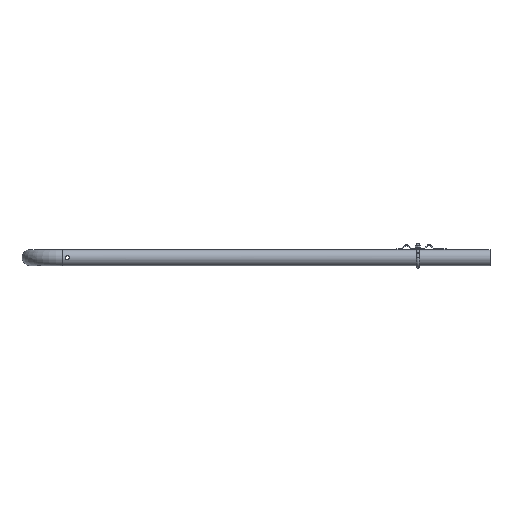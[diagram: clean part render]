
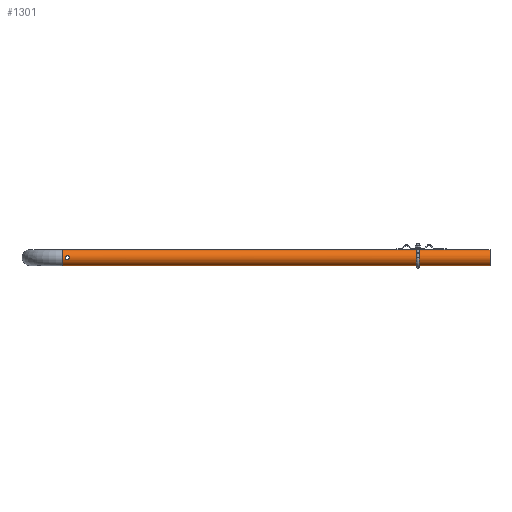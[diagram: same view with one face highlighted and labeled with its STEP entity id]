
A CAD part, left-side view. The second image highlights one B-rep face of the part: STEP entity #1301.
In plain terms, the highlighted cylindrical face has radius 21.2 mm (diameter 42.4 mm), a full revolution.
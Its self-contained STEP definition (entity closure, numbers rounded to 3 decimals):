
#192=CARTESIAN_POINT('',(20.474,1001.2,-5.5));
#193=VERTEX_POINT('',#192);
#194=CARTESIAN_POINT('',(20.474,1001.2,-5.5));
#195=CARTESIAN_POINT('',(20.474,1000.506,-5.5));
#196=CARTESIAN_POINT('',(20.513,999.768,-5.361));
#197=CARTESIAN_POINT('',(20.652,998.414,-4.798));
#198=CARTESIAN_POINT('',(20.749,997.797,-4.376));
#199=CARTESIAN_POINT('',(20.931,996.824,-3.403));
#200=CARTESIAN_POINT('',(21.027,996.402,-2.786));
#201=CARTESIAN_POINT('',(21.163,995.839,-1.432));
#202=CARTESIAN_POINT('',(21.2,995.7,-0.694));
#203=CARTESIAN_POINT('',(21.2,995.7,0.694));
#204=CARTESIAN_POINT('',(21.163,995.839,1.432));
#205=CARTESIAN_POINT('',(21.027,996.402,2.786));
#206=CARTESIAN_POINT('',(20.931,996.824,3.403));
#207=CARTESIAN_POINT('',(20.749,997.797,4.376));
#208=CARTESIAN_POINT('',(20.652,998.414,4.798));
#209=CARTESIAN_POINT('',(20.513,999.768,5.361));
#210=CARTESIAN_POINT('',(20.474,1000.506,5.5));
#211=CARTESIAN_POINT('',(20.474,1001.894,5.5));
#212=CARTESIAN_POINT('',(20.513,1002.632,5.361));
#213=CARTESIAN_POINT('',(20.652,1003.986,4.798));
#214=CARTESIAN_POINT('',(20.749,1004.603,4.376));
#215=CARTESIAN_POINT('',(20.931,1005.576,3.403));
#216=CARTESIAN_POINT('',(21.027,1005.998,2.786));
#217=CARTESIAN_POINT('',(21.163,1006.561,1.432));
#218=CARTESIAN_POINT('',(21.2,1006.7,0.694));
#219=CARTESIAN_POINT('',(21.2,1006.7,-0.694));
#220=CARTESIAN_POINT('',(21.163,1006.561,-1.432));
#221=CARTESIAN_POINT('',(21.027,1005.998,-2.786));
#222=CARTESIAN_POINT('',(20.931,1005.576,-3.403));
#223=CARTESIAN_POINT('',(20.749,1004.603,-4.376));
#224=CARTESIAN_POINT('',(20.652,1003.986,-4.798));
#225=CARTESIAN_POINT('',(20.513,1002.632,-5.361));
#226=CARTESIAN_POINT('',(20.474,1001.894,-5.5));
#227=CARTESIAN_POINT('',(20.474,1001.2,-5.5));
#228=B_SPLINE_CURVE_WITH_KNOTS('',3,(#194,#195,#196,#197,#198,#199,#200,#201,#202,#203,#204,#205,#206,#207,#208,#209,#210,#211,#212,#213,#214,#215,#216,#217,#218,#219,#220,#221,#222,#223,#224,#225,#226,#227),.UNSPECIFIED.,.T.,.U.,(4,2,2,2,2,2,2,2,2,2,2,2,2,2,2,2,4),(0.0,0.208,0.416,0.625,0.833,1.041,1.249,1.457,1.666,1.874,2.082,2.29,2.498,2.707,2.915,3.123,3.331),.UNSPECIFIED.);
#229=EDGE_CURVE('',#193,#193,#228,.T.);
#280=CARTESIAN_POINT('',(-20.474,1001.2,-5.5));
#281=VERTEX_POINT('',#280);
#282=CARTESIAN_POINT('',(-20.474,1001.2,-5.5));
#283=CARTESIAN_POINT('',(-20.474,1001.894,-5.5));
#284=CARTESIAN_POINT('',(-20.513,1002.632,-5.361));
#285=CARTESIAN_POINT('',(-20.652,1003.986,-4.798));
#286=CARTESIAN_POINT('',(-20.749,1004.603,-4.376));
#287=CARTESIAN_POINT('',(-20.931,1005.576,-3.403));
#288=CARTESIAN_POINT('',(-21.027,1005.998,-2.786));
#289=CARTESIAN_POINT('',(-21.163,1006.561,-1.432));
#290=CARTESIAN_POINT('',(-21.2,1006.7,-0.694));
#291=CARTESIAN_POINT('',(-21.2,1006.7,0.694));
#292=CARTESIAN_POINT('',(-21.163,1006.561,1.432));
#293=CARTESIAN_POINT('',(-21.027,1005.998,2.786));
#294=CARTESIAN_POINT('',(-20.931,1005.576,3.403));
#295=CARTESIAN_POINT('',(-20.749,1004.603,4.376));
#296=CARTESIAN_POINT('',(-20.652,1003.986,4.798));
#297=CARTESIAN_POINT('',(-20.513,1002.632,5.361));
#298=CARTESIAN_POINT('',(-20.474,1001.894,5.5));
#299=CARTESIAN_POINT('',(-20.474,1000.506,5.5));
#300=CARTESIAN_POINT('',(-20.513,999.768,5.361));
#301=CARTESIAN_POINT('',(-20.652,998.414,4.798));
#302=CARTESIAN_POINT('',(-20.749,997.797,4.376));
#303=CARTESIAN_POINT('',(-20.931,996.824,3.403));
#304=CARTESIAN_POINT('',(-21.027,996.402,2.786));
#305=CARTESIAN_POINT('',(-21.163,995.839,1.432));
#306=CARTESIAN_POINT('',(-21.2,995.7,0.694));
#307=CARTESIAN_POINT('',(-21.2,995.7,-0.694));
#308=CARTESIAN_POINT('',(-21.163,995.839,-1.432));
#309=CARTESIAN_POINT('',(-21.027,996.402,-2.786));
#310=CARTESIAN_POINT('',(-20.931,996.824,-3.403));
#311=CARTESIAN_POINT('',(-20.749,997.797,-4.376));
#312=CARTESIAN_POINT('',(-20.652,998.414,-4.798));
#313=CARTESIAN_POINT('',(-20.513,999.768,-5.361));
#314=CARTESIAN_POINT('',(-20.474,1000.506,-5.5));
#315=CARTESIAN_POINT('',(-20.474,1001.2,-5.5));
#316=B_SPLINE_CURVE_WITH_KNOTS('',3,(#282,#283,#284,#285,#286,#287,#288,#289,#290,#291,#292,#293,#294,#295,#296,#297,#298,#299,#300,#301,#302,#303,#304,#305,#306,#307,#308,#309,#310,#311,#312,#313,#314,#315),.UNSPECIFIED.,.T.,.U.,(4,2,2,2,2,2,2,2,2,2,2,2,2,2,2,2,4),(0.0,0.208,0.416,0.625,0.833,1.041,1.249,1.457,1.666,1.874,2.082,2.29,2.498,2.707,2.915,3.123,3.331),.UNSPECIFIED.);
#317=EDGE_CURVE('',#281,#281,#316,.T.);
#1264=CARTESIAN_POINT('',(-21.2,1013.5,0.));
#1265=VERTEX_POINT('',#1264);
#1266=CARTESIAN_POINT('',(0.0,1013.5,0.0));
#1267=DIRECTION('',(0.0,-1.0,0.0));
#1268=DIRECTION('',(1.0,0.0,0.0));
#1269=AXIS2_PLACEMENT_3D('',#1266,#1267,#1268);
#1270=CIRCLE('',#1269,21.2);
#1271=EDGE_CURVE('',#1265,#1265,#1270,.T.);
#1276=CARTESIAN_POINT('',(0.0,-116.,0.0));
#1277=DIRECTION('',(0.0,1.0,0.0));
#1278=DIRECTION('',(1.0,0.0,0.0));
#1279=AXIS2_PLACEMENT_3D('',#1276,#1277,#1278);
#1280=CYLINDRICAL_SURFACE('',#1279,21.2);
#1281=ORIENTED_EDGE('',*,*,#1271,.T.);
#1282=EDGE_LOOP('',(#1281));
#1283=FACE_OUTER_BOUND('',#1282,.T.);
#1284=ORIENTED_EDGE('',*,*,#229,.T.);
#1285=EDGE_LOOP('',(#1284));
#1286=FACE_BOUND('',#1285,.T.);
#1287=ORIENTED_EDGE('',*,*,#317,.T.);
#1288=EDGE_LOOP('',(#1287));
#1289=FACE_BOUND('',#1288,.T.);
#1290=CARTESIAN_POINT('',(-21.2,-116.,0.));
#1291=VERTEX_POINT('',#1290);
#1292=CARTESIAN_POINT('',(0.0,-116.,0.0));
#1293=DIRECTION('',(0.0,-1.0,0.0));
#1294=DIRECTION('',(1.0,0.0,0.0));
#1295=AXIS2_PLACEMENT_3D('',#1292,#1293,#1294);
#1296=CIRCLE('',#1295,21.2);
#1297=EDGE_CURVE('',#1291,#1291,#1296,.T.);
#1298=ORIENTED_EDGE('',*,*,#1297,.F.);
#1299=EDGE_LOOP('',(#1298));
#1300=FACE_BOUND('',#1299,.T.);
#1301=ADVANCED_FACE('',(#1283,#1286,#1289,#1300),#1280,.T.);
